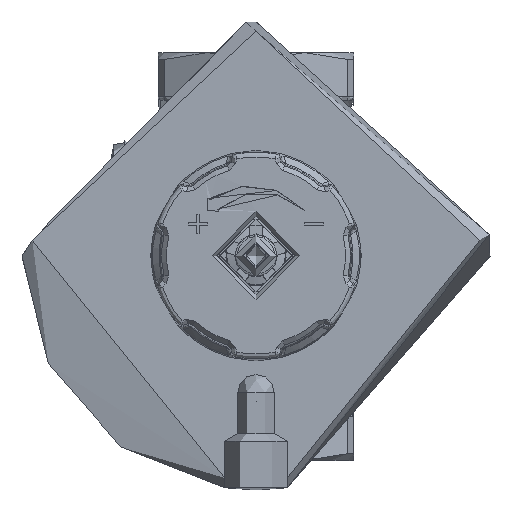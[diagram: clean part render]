
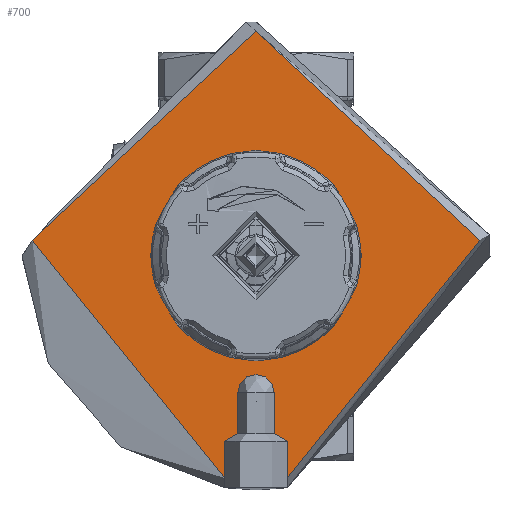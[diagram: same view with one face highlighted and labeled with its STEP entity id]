
A CAD part, top view. The second image highlights one B-rep face of the part: STEP entity #700.
In plain terms, the highlighted planar face has unit normal (0, 0, 1).
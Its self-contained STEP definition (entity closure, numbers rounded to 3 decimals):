
#700=ADVANCED_FACE('',(#7787,#7789),#7791,.T.);
#7787=FACE_BOUND('',#7788,.T.);
#7788=EDGE_LOOP('',(#17104,#17105,#17106,#17107,#17108,#17109,#17110,#17111));
#7789=FACE_BOUND('',#7790,.T.);
#7790=EDGE_LOOP('',(#17112));
#7791=PLANE('',#7792);
#7792=AXIS2_PLACEMENT_3D('',#7793,#7794,#7795);
#7793=CARTESIAN_POINT('',(0.,0.,97.7));
#7794=DIRECTION('',(0.,0.,1.));
#7795=DIRECTION('',(-1.,0.,0.));
#17104=ORIENTED_EDGE('',*,*,#26332,.F.);
#17105=ORIENTED_EDGE('',*,*,#26333,.F.);
#17106=ORIENTED_EDGE('',*,*,#26310,.F.);
#17107=ORIENTED_EDGE('',*,*,#26308,.T.);
#17108=ORIENTED_EDGE('',*,*,#26306,.F.);
#17109=ORIENTED_EDGE('',*,*,#26329,.F.);
#17110=ORIENTED_EDGE('',*,*,#26334,.F.);
#17111=ORIENTED_EDGE('',*,*,#26335,.F.);
#17112=ORIENTED_EDGE('',*,*,#26336,.F.);
#26306=EDGE_CURVE('',#30742,#30744,#30745,.T.);
#26308=EDGE_CURVE('',#30747,#30744,#30748,.T.);
#26310=EDGE_CURVE('',#30747,#30750,#30751,.T.);
#26329=EDGE_CURVE('',#30777,#30742,#30778,.T.);
#26332=EDGE_CURVE('',#30782,#30783,#30784,.T.);
#26333=EDGE_CURVE('',#30750,#30782,#30785,.T.);
#26334=EDGE_CURVE('',#30786,#30777,#30787,.T.);
#26335=EDGE_CURVE('',#30783,#30786,#30788,.F.);
#26336=EDGE_CURVE('',#30789,#30789,#30790,.T.);
#30742=VERTEX_POINT('',#50939);
#30744=VERTEX_POINT('',#50943);
#30745=LINE('',#50944,#50945);
#30747=VERTEX_POINT('',#50984);
#30748=CIRCLE('',#50985,46.2);
#30750=VERTEX_POINT('',#51027);
#30751=LINE('',#51028,#51029);
#30777=VERTEX_POINT('',#51126);
#30778=LINE('',#51127,#51128);
#30782=VERTEX_POINT('',#51137);
#30783=VERTEX_POINT('',#51138);
#30784=LINE('',#51139,#51140);
#30785=LINE('',#51142,#51143);
#30786=VERTEX_POINT('',#51145);
#30787=LINE('',#51146,#51147);
#30788=CIRCLE('',#51149,3.75);
#30789=VERTEX_POINT('',#51153);
#30790=CIRCLE('',#51154,13.35);
#50939=CARTESIAN_POINT('',(-6.5,-38.2,97.7));
#50943=CARTESIAN_POINT('',(-6.5,-45.74,97.7));
#50944=CARTESIAN_POINT('',(-6.5,-38.2,97.7));
#50945=VECTOR('',#50946,1.);
#50946=DIRECTION('',(0.,-1.,0.));
#50984=CARTESIAN_POINT('',(6.5,-45.74,97.7));
#50985=AXIS2_PLACEMENT_3D('',#50986,#50987,#50988);
#50986=CARTESIAN_POINT('',(0.,0.,97.7));
#50987=DIRECTION('',(0.,0.,1.));
#50988=DIRECTION('',(0.141,-0.99,0.));
#51027=CARTESIAN_POINT('',(6.5,-38.2,97.7));
#51028=CARTESIAN_POINT('',(6.5,-45.74,97.7));
#51029=VECTOR('',#51030,1.);
#51030=DIRECTION('',(0.,1.,0.));
#51126=CARTESIAN_POINT('',(-3.75,-36.612,97.7));
#51127=CARTESIAN_POINT('',(-3.75,-36.612,97.7));
#51128=VECTOR('',#51129,1.);
#51129=DIRECTION('',(-0.866,-0.5,0.));
#51137=CARTESIAN_POINT('',(3.75,-36.612,97.7));
#51138=CARTESIAN_POINT('',(3.75,-28.2,97.7));
#51139=CARTESIAN_POINT('',(3.75,-36.612,97.7));
#51140=VECTOR('',#51141,1.);
#51141=DIRECTION('',(0.,1.,0.));
#51142=CARTESIAN_POINT('',(6.5,-38.2,97.7));
#51143=VECTOR('',#51144,1.);
#51144=DIRECTION('',(-0.866,0.5,0.));
#51145=CARTESIAN_POINT('',(-3.75,-28.2,97.7));
#51146=CARTESIAN_POINT('',(-3.75,-28.2,97.7));
#51147=VECTOR('',#51148,1.);
#51148=DIRECTION('',(0.,-1.,0.));
#51149=AXIS2_PLACEMENT_3D('',#51150,#51151,#51152);
#51150=CARTESIAN_POINT('',(0.,-28.2,97.7));
#51151=DIRECTION('',(0.,0.,-1.));
#51152=DIRECTION('',(-1.,0.,0.));
#51153=CARTESIAN_POINT('',(-13.35,0.,97.7));
#51154=AXIS2_PLACEMENT_3D('',#51155,#51156,#51157);
#51155=CARTESIAN_POINT('',(0.,0.,97.7));
#51156=DIRECTION('',(0.,0.,1.));
#51157=DIRECTION('',(-1.,0.,0.));
